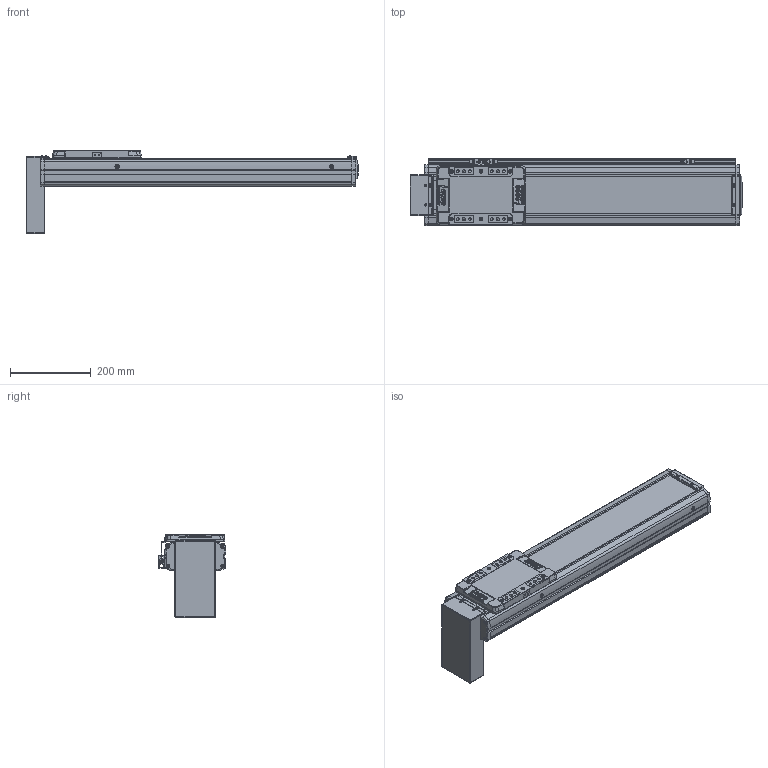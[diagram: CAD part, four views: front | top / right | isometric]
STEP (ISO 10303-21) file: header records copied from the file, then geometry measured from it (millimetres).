
FILE_DESCRIPTION(('STEP AP214'),'1');
FILE_NAME('Z:/Web/3D/SAN150/2013.04 (STP.)/SAN150ㅁㅁ-500PB+3SL.stp','2013-05-07T11:31:26',(' '),(' '),'Spatial InterOp 3D',' ',' ');
FILE_SCHEMA(('automotive_design'));
Length unit declared in the file: millimetre
Products named in the file (58): SLBL-SAN150; SLCV-SAN150; FHCS M4.0 x 8.0; BHCS M4.0 x 10.0; SFX-SAN150; RRCV-SAN150; FRBL-SAN150; Spacer; RN15; FRCV-SAN150; Screw 20; BASE-SAN150-000L ; SUS COVER; 스크루 : Round - M5.0 x 6.0; PB; 스크루 : Round - M3.0 x 6.0; M3.0 x 6.0; SRL-16x17-360L; SGD-SAN150; EE-SX674; SBK-SX674-352
Bounding box: 820 x 166 x 205.4 mm (x, y, z)
Volume: 5454106.6 mm3; surface area: 1017698.9 mm2
Topology: 58 solids, 58 shells, 2618 faces, 6733 edges, 4330 vertices
Faces by surface type: plane 1392, cylinder 847, cone 266, sphere 80, bspline 21, torus 12
Entity records: 103586 total; most frequent: CARTESIAN_POINT 16353, DIRECTION 14248, ORIENTED_EDGE 13250, EDGE_CURVE 6625, AXIS2_PLACEMENT_3D 5052, VERTEX_POINT 4330, LINE 4144, VECTOR 4144
